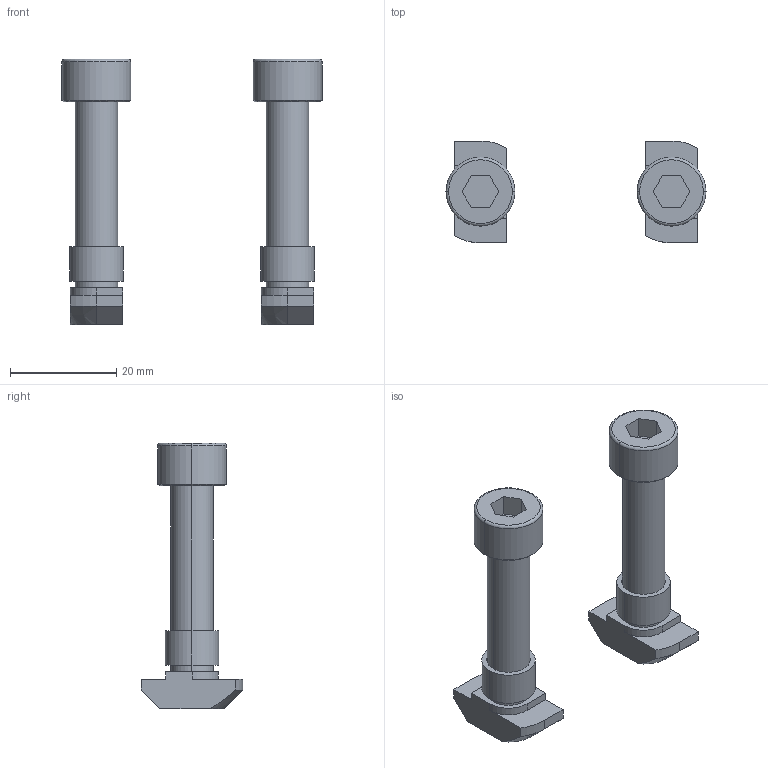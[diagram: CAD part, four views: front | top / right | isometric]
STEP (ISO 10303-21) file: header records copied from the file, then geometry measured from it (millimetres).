
FILE_DESCRIPTION (( 'STEP AP203' ), '1' );
FILE_NAME ('75000014.STEP', '2016-11-21T07:58:32', ( '' ), ( '' ), 'SwSTEP 2.0', 'SolidWorks 2015', '' );
FILE_SCHEMA (( 'CONFIG_CONTROL_DESIGN' ));
Length unit declared in the file: millimetre
Products named in the file (1): 75000014
Bounding box: 49 x 19.2 x 50 mm (x, y, z)
Volume: 7654.3 mm3; surface area: 5154.7 mm2
Topology: 2 solids, 2 shells, 96 faces, 224 edges, 144 vertices
Faces by surface type: plane 48, cylinder 32, cone 12, torus 4
Entity records: 3063 total; most frequent: CARTESIAN_POINT 733, DIRECTION 482, ORIENTED_EDGE 448, EDGE_CURVE 224, AXIS2_PLACEMENT_3D 173, VERTEX_POINT 144, VECTOR 136, LINE 136
